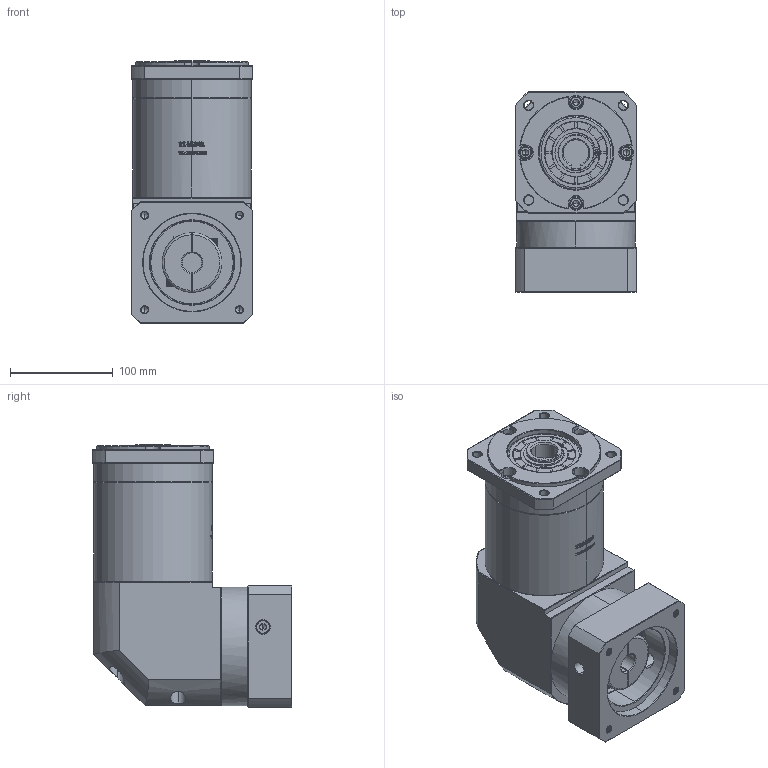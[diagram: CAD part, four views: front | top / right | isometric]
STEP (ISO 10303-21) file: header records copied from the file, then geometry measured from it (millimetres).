
FILE_DESCRIPTION (( 'STEP AP214' ), '1' );
FILE_NAME ('ZFR120A-K25-L3-19-95-130-M8.step', '2023-03-08T08:33:09', ( '' ), ( '' ), 'SwSTEP 2.0', 'SolidWorks 2016', '' );
FILE_SCHEMA (( 'AUTOMOTIVE_DESIGN' ));
Length unit declared in the file: millimetre
Products named in the file (1): ZFR120A-K25-L3-19-95-130-M8
Bounding box: 118 x 193.9 x 255 mm (x, y, z)
Volume: 3446017.7 mm3; surface area: 262461.1 mm2
Topology: 6 solids, 6 shells, 2813 faces, 7532 edges, 4864 vertices
Faces by surface type: plane 1477, bspline 597, cylinder 401, cone 330, torus 8
Entity records: 152437 total; most frequent: CARTESIAN_POINT 56812, ORIENTED_EDGE 15008, DIRECTION 10937, EDGE_CURVE 7504, VERTEX_POINT 4864, VECTOR 4695, LINE 4695, AXIS2_PLACEMENT_3D 3121
